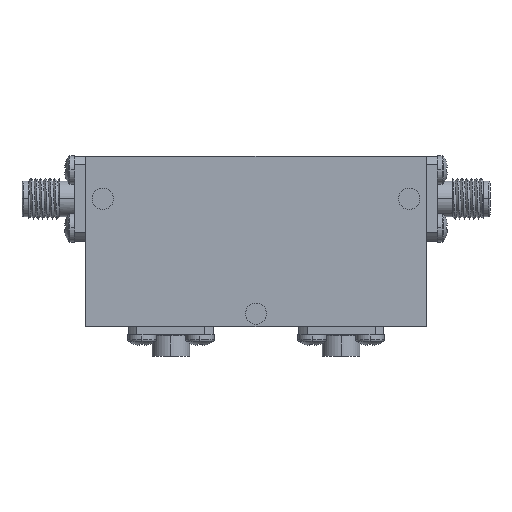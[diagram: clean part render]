
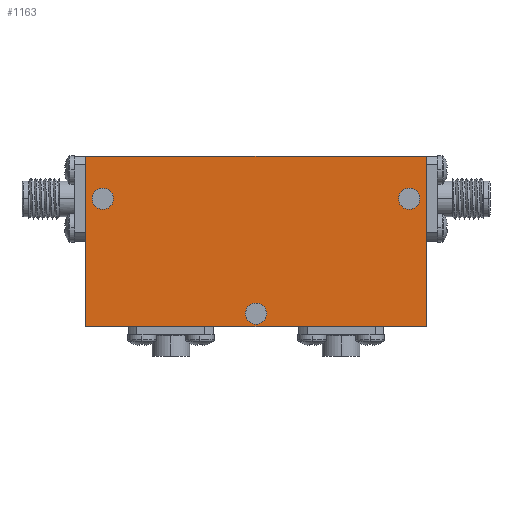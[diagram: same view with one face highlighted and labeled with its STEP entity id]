
A CAD part, top view. The second image highlights one B-rep face of the part: STEP entity #1163.
In plain terms, the highlighted planar face has unit normal (0, 0, 1).
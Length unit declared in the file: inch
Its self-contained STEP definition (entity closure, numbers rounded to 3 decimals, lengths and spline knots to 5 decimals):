
#62 = CARTESIAN_POINT ( 'NONE',  ( 1., 0.5, 0.25 ) ) ;
#68 = LINE ( 'NONE', #545, #3911 ) ;
#123 = DIRECTION ( 'NONE',  ( 1., 0., 0. ) ) ;
#253 = ORIENTED_EDGE ( 'NONE', *, *, #1273, .T. ) ;
#260 = AXIS2_PLACEMENT_3D ( 'NONE', #693, #4065, #2602 ) ;
#387 = ORIENTED_EDGE ( 'NONE', *, *, #2051, .F. ) ;
#486 = VERTEX_POINT ( 'NONE', #557 ) ;
#545 = CARTESIAN_POINT ( 'NONE',  ( -1., 0.5, 0.25 ) ) ;
#557 = CARTESIAN_POINT ( 'NONE',  ( -1., 0.5, 0.25 ) ) ;
#574 = EDGE_LOOP ( 'NONE', ( #4381, #599 ) ) ;
#582 = FACE_OUTER_BOUND ( 'NONE', #2208, .T. ) ;
#599 = ORIENTED_EDGE ( 'NONE', *, *, #3731, .F. ) ;
#693 = CARTESIAN_POINT ( 'NONE',  ( 0., -0.425, 0.25 ) ) ;
#762 = DIRECTION ( 'NONE',  ( 1., 0., 0. ) ) ;
#780 = EDGE_LOOP ( 'NONE', ( #2970, #1891 ) ) ;
#850 = VECTOR ( 'NONE', #1587, 39.37008 ) ;
#892 = LINE ( 'NONE', #4401, #2363 ) ;
#1163 = ADVANCED_FACE ( 'NONE', ( #4674, #3723, #3835, #582 ), #4689, .T. ) ;
#1172 = EDGE_CURVE ( 'NONE', #2973, #486, #68, .T. ) ;
#1240 = AXIS2_PLACEMENT_3D ( 'NONE', #3629, #4765, #4023 ) ;
#1252 = EDGE_LOOP ( 'NONE', ( #387, #2625 ) ) ;
#1269 = CARTESIAN_POINT ( 'NONE',  ( 0.8375, 0.25, 0.25 ) ) ;
#1273 = EDGE_CURVE ( 'NONE', #3906, #1728, #892, .T. ) ;
#1322 = LINE ( 'NONE', #2757, #850 ) ;
#1379 = VERTEX_POINT ( 'NONE', #1738 ) ;
#1404 = VERTEX_POINT ( 'NONE', #3671 ) ;
#1473 = CARTESIAN_POINT ( 'NONE',  ( -0.9, 0.25, 0.25 ) ) ;
#1542 = CARTESIAN_POINT ( 'NONE',  ( 0.9625, 0.25, 0.25 ) ) ;
#1587 = DIRECTION ( 'NONE',  ( 0., -1., 0. ) ) ;
#1620 = EDGE_CURVE ( 'NONE', #1728, #2973, #2243, .T. ) ;
#1667 = DIRECTION ( 'NONE',  ( -1., 0., 0. ) ) ;
#1669 = VERTEX_POINT ( 'NONE', #4234 ) ;
#1720 = DIRECTION ( 'NONE',  ( 1., 0., 0. ) ) ;
#1728 = VERTEX_POINT ( 'NONE', #2452 ) ;
#1738 = CARTESIAN_POINT ( 'NONE',  ( -0.8375, 0.25, 0.25 ) ) ;
#1891 = ORIENTED_EDGE ( 'NONE', *, *, #4537, .F. ) ;
#1979 = DIRECTION ( 'NONE',  ( 0., 1., 0. ) ) ;
#1993 = DIRECTION ( 'NONE',  ( 1., 0., 0. ) ) ;
#2005 = VECTOR ( 'NONE', #1979, 39.37008 ) ;
#2051 = EDGE_CURVE ( 'NONE', #1404, #1669, #2179, .T. ) ;
#2080 = VERTEX_POINT ( 'NONE', #1269 ) ;
#2093 = CARTESIAN_POINT ( 'NONE',  ( -1., -0.5, 0.25 ) ) ;
#2120 = AXIS2_PLACEMENT_3D ( 'NONE', #2394, #4307, #123 ) ;
#2179 = CIRCLE ( 'NONE', #2120, 0.0625 ) ;
#2208 = EDGE_LOOP ( 'NONE', ( #2367, #4526, #3145, #253 ) ) ;
#2243 = LINE ( 'NONE', #62, #2005 ) ;
#2345 = AXIS2_PLACEMENT_3D ( 'NONE', #3815, #2949, #762 ) ;
#2352 = CIRCLE ( 'NONE', #2345, 0.0625 ) ;
#2363 = VECTOR ( 'NONE', #1720, 39.37008 ) ;
#2367 = ORIENTED_EDGE ( 'NONE', *, *, #1620, .T. ) ;
#2372 = CARTESIAN_POINT ( 'NONE',  ( -0.9625, 0.25, 0.25 ) ) ;
#2394 = CARTESIAN_POINT ( 'NONE',  ( 0., -0.425, 0.25 ) ) ;
#2403 = EDGE_CURVE ( 'NONE', #1379, #2566, #2352, .T. ) ;
#2452 = CARTESIAN_POINT ( 'NONE',  ( 1., -0.5, 0.25 ) ) ;
#2566 = VERTEX_POINT ( 'NONE', #2372 ) ;
#2602 = DIRECTION ( 'NONE',  ( 1., 0., 0. ) ) ;
#2625 = ORIENTED_EDGE ( 'NONE', *, *, #4425, .F. ) ;
#2757 = CARTESIAN_POINT ( 'NONE',  ( -1., 0.5, 0.25 ) ) ;
#2767 = CARTESIAN_POINT ( 'NONE',  ( 0.9, 0.25, 0.25 ) ) ;
#2824 = EDGE_CURVE ( 'NONE', #3435, #2080, #4539, .T. ) ;
#2949 = DIRECTION ( 'NONE',  ( 0., 0., 1. ) ) ;
#2970 = ORIENTED_EDGE ( 'NONE', *, *, #2403, .F. ) ;
#2973 = VERTEX_POINT ( 'NONE', #4083 ) ;
#3145 = ORIENTED_EDGE ( 'NONE', *, *, #4771, .T. ) ;
#3432 = DIRECTION ( 'NONE',  ( 0., 0., 1. ) ) ;
#3435 = VERTEX_POINT ( 'NONE', #1542 ) ;
#3500 = DIRECTION ( 'NONE',  ( 0., 0., 1. ) ) ;
#3562 = DIRECTION ( 'NONE',  ( 1., 0., 0. ) ) ;
#3620 = AXIS2_PLACEMENT_3D ( 'NONE', #1473, #3432, #3800 ) ;
#3629 = CARTESIAN_POINT ( 'NONE',  ( 0.9, 0.25, 0.25 ) ) ;
#3671 = CARTESIAN_POINT ( 'NONE',  ( 0.0625, -0.425, 0.25 ) ) ;
#3723 = FACE_BOUND ( 'NONE', #1252, .T. ) ;
#3731 = EDGE_CURVE ( 'NONE', #2080, #3435, #4469, .T. ) ;
#3800 = DIRECTION ( 'NONE',  ( 1., 0., 0. ) ) ;
#3815 = CARTESIAN_POINT ( 'NONE',  ( -0.9, 0.25, 0.25 ) ) ;
#3835 = FACE_BOUND ( 'NONE', #780, .T. ) ;
#3854 = CIRCLE ( 'NONE', #3620, 0.0625 ) ;
#3906 = VERTEX_POINT ( 'NONE', #2093 ) ;
#3911 = VECTOR ( 'NONE', #1667, 39.37008 ) ;
#3989 = AXIS2_PLACEMENT_3D ( 'NONE', #4339, #4650, #3562 ) ;
#4023 = DIRECTION ( 'NONE',  ( 1., 0., 0. ) ) ;
#4065 = DIRECTION ( 'NONE',  ( 0., 0., 1. ) ) ;
#4083 = CARTESIAN_POINT ( 'NONE',  ( 1., 0.5, 0.25 ) ) ;
#4234 = CARTESIAN_POINT ( 'NONE',  ( -0.0625, -0.425, 0.25 ) ) ;
#4256 = AXIS2_PLACEMENT_3D ( 'NONE', #2767, #3500, #1993 ) ;
#4307 = DIRECTION ( 'NONE',  ( 0., 0., 1. ) ) ;
#4339 = CARTESIAN_POINT ( 'NONE',  ( 0., 0., 0.25 ) ) ;
#4381 = ORIENTED_EDGE ( 'NONE', *, *, #2824, .F. ) ;
#4401 = CARTESIAN_POINT ( 'NONE',  ( -1., -0.5, 0.25 ) ) ;
#4425 = EDGE_CURVE ( 'NONE', #1669, #1404, #4515, .T. ) ;
#4469 = CIRCLE ( 'NONE', #4256, 0.0625 ) ;
#4515 = CIRCLE ( 'NONE', #260, 0.0625 ) ;
#4526 = ORIENTED_EDGE ( 'NONE', *, *, #1172, .T. ) ;
#4537 = EDGE_CURVE ( 'NONE', #2566, #1379, #3854, .T. ) ;
#4539 = CIRCLE ( 'NONE', #1240, 0.0625 ) ;
#4650 = DIRECTION ( 'NONE',  ( 0., 0., 1. ) ) ;
#4674 = FACE_BOUND ( 'NONE', #574, .T. ) ;
#4689 = PLANE ( 'NONE',  #3989 ) ;
#4765 = DIRECTION ( 'NONE',  ( 0., 0., 1. ) ) ;
#4771 = EDGE_CURVE ( 'NONE', #486, #3906, #1322, .T. ) ;
